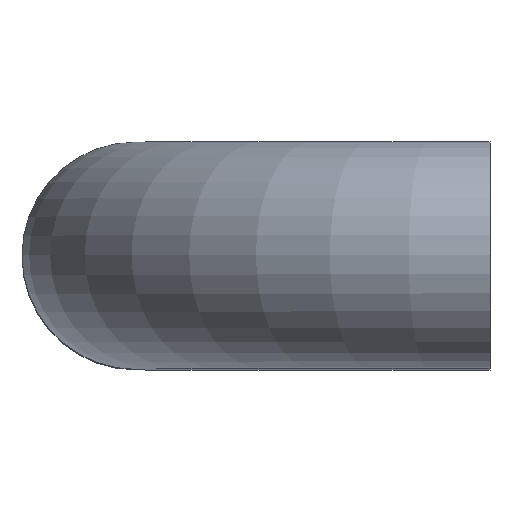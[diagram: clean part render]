
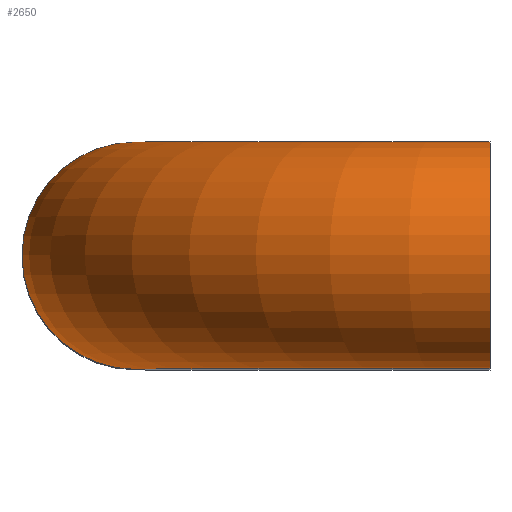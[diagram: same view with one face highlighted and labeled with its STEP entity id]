
A CAD part, top view. The second image highlights one B-rep face of the part: STEP entity #2650.
In plain terms, the highlighted toroidal (fillet/blend) face has major radius 36.75 mm and minor radius 11.75 mm.
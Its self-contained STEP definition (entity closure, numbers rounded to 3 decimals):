
#143=TOROIDAL_SURFACE('',#2821,36.75,11.75);
#636=FACE_OUTER_BOUND('',#783,.T.);
#783=EDGE_LOOP('',(#1777,#1778,#1779,#1780));
#971=CIRCLE('',#2802,11.75);
#985=CIRCLE('',#2819,11.75);
#986=CIRCLE('',#2822,25.);
#1009=VERTEX_POINT('',#2977);
#1031=VERTEX_POINT('',#3066);
#1301=EDGE_CURVE('',#1009,#1009,#971,.T.);
#1325=EDGE_CURVE('',#1031,#1031,#985,.T.);
#1326=EDGE_CURVE('',#1031,#1009,#986,.T.);
#1777=ORIENTED_EDGE('',*,*,#1325,.T.);
#1778=ORIENTED_EDGE('',*,*,#1326,.T.);
#1779=ORIENTED_EDGE('',*,*,#1301,.T.);
#1780=ORIENTED_EDGE('',*,*,#1326,.F.);
#2650=ADVANCED_FACE('',(#636),#143,.T.);
#2802=AXIS2_PLACEMENT_3D('',#2978,#2857,#2858);
#2819=AXIS2_PLACEMENT_3D('',#3067,#2893,#2894);
#2821=AXIS2_PLACEMENT_3D('',#3069,#2897,#2898);
#2822=AXIS2_PLACEMENT_3D('',#3070,#2899,#2900);
#2857=DIRECTION('center_axis',(0.,0.,1.));
#2858=DIRECTION('ref_axis',(1.,0.,0.));
#2893=DIRECTION('center_axis',(-1.,0.,0.));
#2894=DIRECTION('ref_axis',(0.,0.,-1.));
#2897=DIRECTION('center_axis',(0.,-1.,0.));
#2898=DIRECTION('ref_axis',(0.,0.,1.));
#2899=DIRECTION('center_axis',(0.,-1.,0.));
#2900=DIRECTION('ref_axis',(0.,0.,1.));
#2977=CARTESIAN_POINT('',(11.75,0.,59.5));
#2978=CARTESIAN_POINT('Origin',(0.,0.,59.5));
#3066=CARTESIAN_POINT('',(36.75,0.,84.5));
#3067=CARTESIAN_POINT('Origin',(36.75,0.,96.25));
#3069=CARTESIAN_POINT('Origin',(36.75,0.,59.5));
#3070=CARTESIAN_POINT('Origin',(36.75,0.,59.5));
